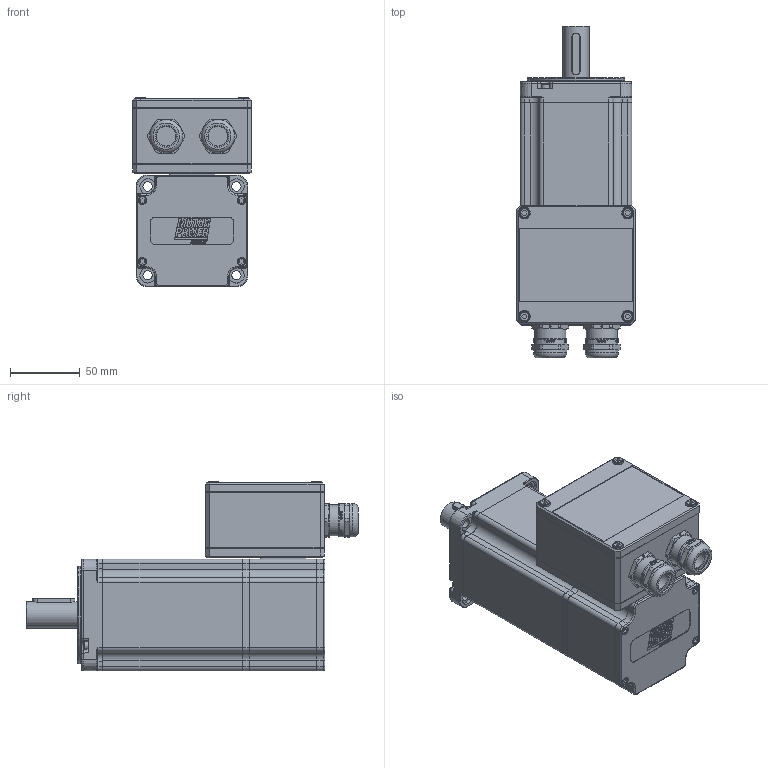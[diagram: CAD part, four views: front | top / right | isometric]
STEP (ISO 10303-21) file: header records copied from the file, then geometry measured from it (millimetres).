
FILE_DESCRIPTION(/* description */ ('Unknown'),/* implementation_level */ '2;1');
FILE_NAME(/* name */ 'TC4-80.3C LV M1 MORS Q0C152',/* time_stamp */ '2026-06-09T14:34:41+02:00',/* author */ ('Unknown'),/* organization */ ('Unknown'),/* preprocessor_version */ 'ST-DEVELOPER v19.4',/* originating_system */ 'Solid Edge',/* authorisation */ 'Unknown');
FILE_SCHEMA (('TECHNICAL_DATA_PACKAGING','AUTOMOTIVE_DESIGN {1 0 10303 214 3 1 1}'));
Products named in the file (25): Q0C152 3C M1 VUOTO; 005119001500; 003155002220; 003103040148; 003107003286; 003755100351; 007303000110; 005911000494; 005911000495; 005911000420; 005603000170; 005603000170_Gland; 005603000170_Nut; 005603000170_Clamping insert; 005603000170_Sealing insert; 005603000170_O Ring; 007303000700; 003251040719; 003355001193; 003110000130; 005911000550; 003799004095; Albero TC4 80 H50 A19 LV; DISPERSORE TC4-80 10P H 50 L100 PR. DUET LV ; 005113000500
Assembly tree (38 placements, depth 3):
  Q0C152 3C M1 VUOTO
    005119001500
    003155002220
    003103040148
    003107003286
    003755100351
    007303000110  x2
    005911000494  x4
    005911000495  x4
    005911000420  x4
    005603000170  x2
      005603000170_Gland
      005603000170_Nut
      005603000170_Clamping insert
      005603000170_Sealing insert
      005603000170_O Ring
    007303000700
    003251040719
    003355001193
    003110000130
    005911000550  x4
    003799004095
    Albero TC4 80 H50 A19 LV
    DISPERSORE TC4-80 10P H 50 L100 PR. DUET LV 
    005113000500
Bounding box: 85.23 x 237.69 x 135.71 mm (x, y, z)
Volume: 529730.5 mm3; surface area: 279498.6 mm2
Topology: 43 solids, 43 shells, 3169 faces, 8108 edges, 5216 vertices
Faces by surface type: plane 1914, cylinder 623, bspline 237, cone 219, torus 176
Full cylindrical faces by diameter (mm): 1 x8, 2.459 x22, 2.5 x1, 3 x8, 3.2 x1, 3.242 x4, 3.3 x4, 3.5 x20, 4 x8, 4.5 x4, 4.917 x1, 5 x8, 5.15 x8, 5.5 x8, 6 x8, 6.4 x1, 6.6 x4, 7 x12, 8 x4, 11 x4, 14 x2, 14.2 x2, 14.3 x2, 15 x2, 16.1 x4, 18.4 x4, 19 x2, 19.2 x4, 19.99 x1, 20 x2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
Entity records: 87852 total; most frequent: CARTESIAN_POINT 20401, ORIENTED_EDGE 11376, DIRECTION 10962, EDGE_CURVE 5688, AXIS2_PLACEMENT_3D 3869, VERTEX_POINT 3823, LINE 3224, VECTOR 3224
